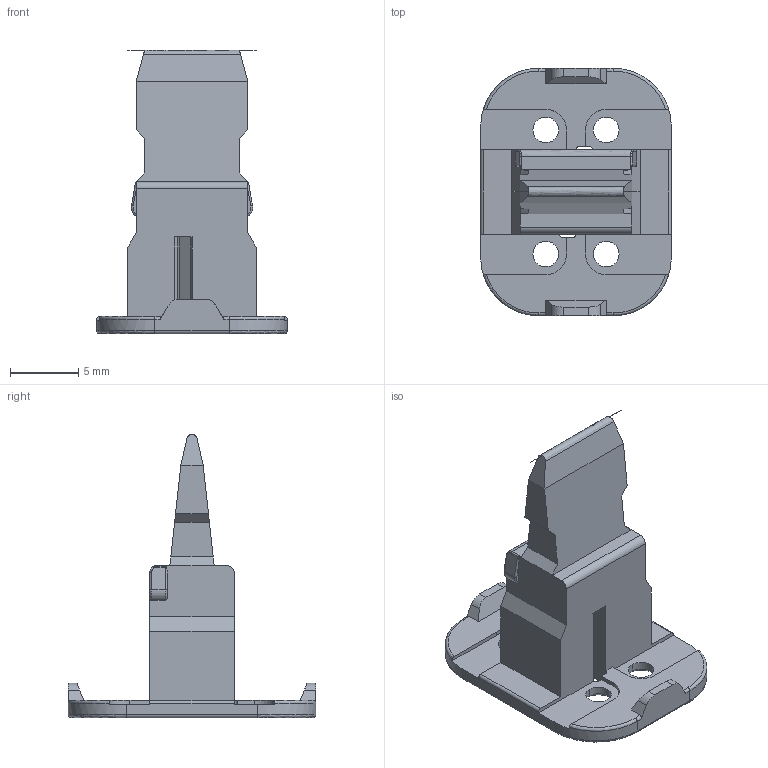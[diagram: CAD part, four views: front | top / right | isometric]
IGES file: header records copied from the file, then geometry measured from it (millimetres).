
Start section:  PTC IGES file: c-w4sb-p012-99-3d.igs
Global section: file name: c-w4sb-p012-99-3d.igs; native system: Pro/ENGINEER by Parametric Technology Corporation; preprocessor: 2011490; author: workeradm; organization: Unknown; units: millimetre
Bounding box: 14 x 18.19 x 20.83 mm (x, y, z)
Surface area: 1168 mm2 (no closed solid volume)
Topology: 0 solids, 0 shells, 160 faces, 872 edges, 872 vertices
Faces by surface type: revolution 81, bspline 79
